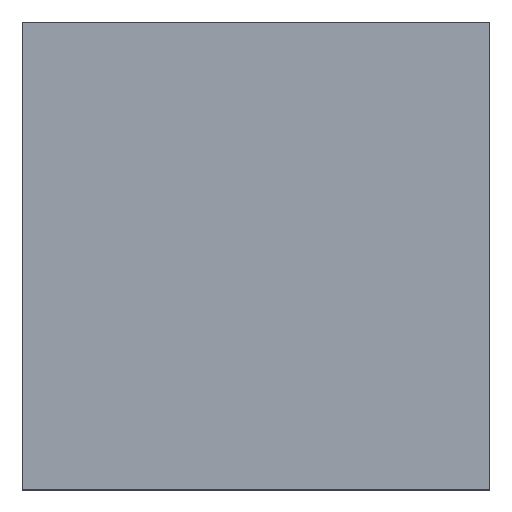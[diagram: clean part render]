
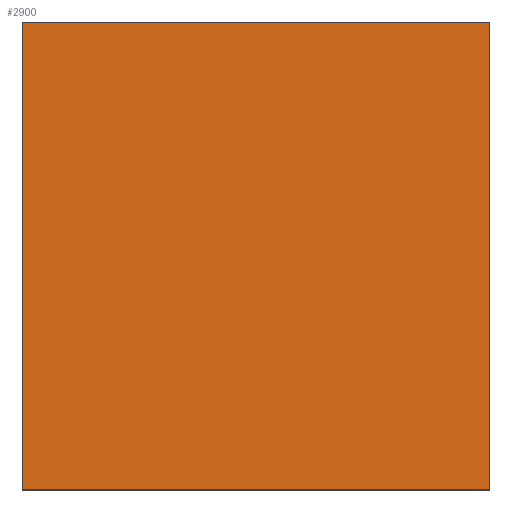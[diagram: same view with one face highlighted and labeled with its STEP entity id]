
A CAD part, top view. The second image highlights one B-rep face of the part: STEP entity #2900.
In plain terms, the highlighted planar face has unit normal (0, 0, 1).
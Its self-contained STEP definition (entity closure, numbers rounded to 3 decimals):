
#120 = CARTESIAN_POINT ('', (9., -9., -11.623));
#130 = VERTEX_POINT ('', #120);
#190 = CARTESIAN_POINT ('', (-9., -9., -11.623));
#200 = VERTEX_POINT ('', #190);
#210 = CARTESIAN_POINT ('', (-9., -9., -11.623));
#220 = CARTESIAN_POINT ('', (-3., -9., -11.623));
#230 = CARTESIAN_POINT ('', (3., -9., -11.623));
#240 = CARTESIAN_POINT ('', (9., -9., -11.623));
#250 = B_SPLINE_CURVE_WITH_KNOTS ('', 3, (#210, #220, #230, #240), .UNSPECIFIED., .F., .U., (4, 4), (0., 18.), .UNSPECIFIED.);
#260 = EDGE_CURVE ('', #200, #130, #250, .T.);
#620 = CARTESIAN_POINT ('', (9., 9., -11.623));
#630 = VERTEX_POINT ('', #620);
#690 = CARTESIAN_POINT ('', (9., -9., -11.623));
#700 = CARTESIAN_POINT ('', (9., -3., -11.623));
#710 = CARTESIAN_POINT ('', (9., 3., -11.623));
#720 = CARTESIAN_POINT ('', (9., 9., -11.623));
#730 = B_SPLINE_CURVE_WITH_KNOTS ('', 3, (#690, #700, #710, #720), .UNSPECIFIED., .F., .U., (4, 4), (0., 18.), .UNSPECIFIED.);
#740 = EDGE_CURVE ('', #130, #630, #730, .T.);
#1220 = CARTESIAN_POINT ('', (-9., 9., -11.623));
#1230 = VERTEX_POINT ('', #1220);
#1290 = CARTESIAN_POINT ('', (9., 9., -11.623));
#1300 = CARTESIAN_POINT ('', (3., 9., -11.623));
#1310 = CARTESIAN_POINT ('', (-3., 9., -11.623));
#1320 = CARTESIAN_POINT ('', (-9., 9., -11.623));
#1330 = B_SPLINE_CURVE_WITH_KNOTS ('', 3, (#1290, #1300, #1310, #1320), .UNSPECIFIED., .F., .U., (4, 4), (0., 18.), .UNSPECIFIED.);
#1340 = EDGE_CURVE ('', #630, #1230, #1330, .T.);
#1650 = CARTESIAN_POINT ('', (-9., 9., -11.623));
#1660 = CARTESIAN_POINT ('', (-9., 3., -11.623));
#1670 = CARTESIAN_POINT ('', (-9., -3., -11.623));
#1680 = CARTESIAN_POINT ('', (-9., -9., -11.623));
#1690 = B_SPLINE_CURVE_WITH_KNOTS ('', 3, (#1650, #1660, #1670, #1680), .UNSPECIFIED., .F., .U., (4, 4), (0., 18.), .UNSPECIFIED.);
#1700 = EDGE_CURVE ('', #1230, #200, #1690, .T.);
#2790 = ORIENTED_EDGE ('', *, *, #260, .T.);
#2800 = ORIENTED_EDGE ('', *, *, #740, .T.);
#2810 = ORIENTED_EDGE ('', *, *, #1340, .T.);
#2820 = ORIENTED_EDGE ('', *, *, #1700, .T.);
#2830 = EDGE_LOOP ('', (#2790, #2800, #2810, #2820));
#2840 = FACE_OUTER_BOUND ('', #2830, .T.);
#2850 = CARTESIAN_POINT ('', (0., 18.564, -11.623));
#2860 = DIRECTION ('', (0., 0., 1.));
#2870 = DIRECTION ('', (-0.707, -0.707, 0.));
#2880 = AXIS2_PLACEMENT_3D ('', #2850, #2860, #2870);
#2890 = PLANE ('', #2880);
#2900 = ADVANCED_FACE ('', (#2840), #2890, .T.);
